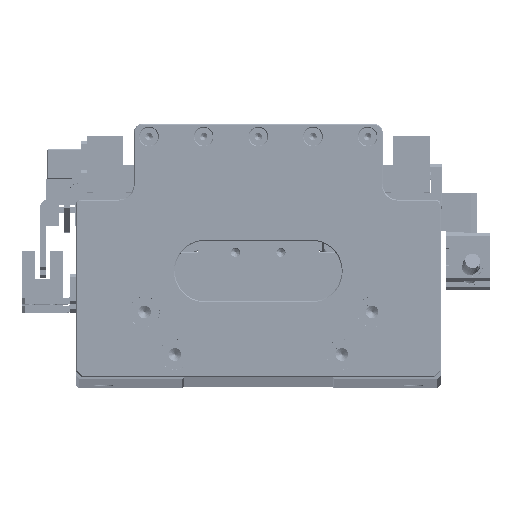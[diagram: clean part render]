
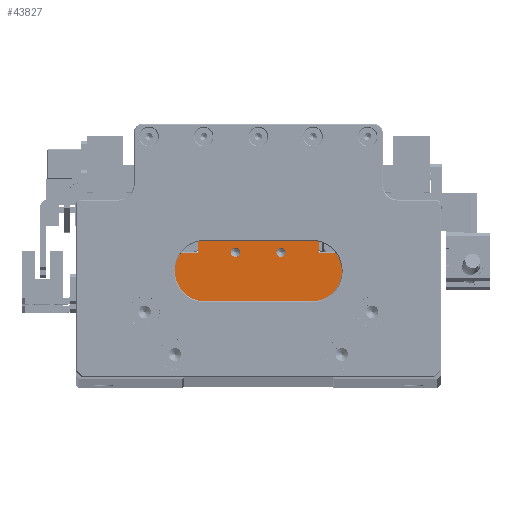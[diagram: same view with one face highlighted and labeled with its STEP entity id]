
A CAD part, top view. The second image highlights one B-rep face of the part: STEP entity #43827.
In plain terms, the highlighted planar face has unit normal (0, 0, 1).
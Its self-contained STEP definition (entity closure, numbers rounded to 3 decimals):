
#518 = ORIENTED_EDGE ( 'NONE', *, *, #74993, .F. ) ;
#971 = CARTESIAN_POINT ( 'NONE',  ( -20., 29.7, 83.854 ) ) ;
#2728 = CARTESIAN_POINT ( 'NONE',  ( -7.5, 25.7, 83.854 ) ) ;
#5078 = DIRECTION ( 'NONE',  ( 0., 0., 1. ) ) ;
#5548 = VECTOR ( 'NONE', #66622, 1000. ) ;
#9921 = VERTEX_POINT ( 'NONE', #87166 ) ;
#11412 = CARTESIAN_POINT ( 'NONE',  ( -7.5, 29.7, 83.854 ) ) ;
#14302 = CARTESIAN_POINT ( 'NONE',  ( 7.5, 25.8, 83.854 ) ) ;
#16422 = VERTEX_POINT ( 'NONE', #46594 ) ;
#17120 = EDGE_LOOP ( 'NONE', ( #26676, #119900 ) ) ;
#18839 = CIRCLE ( 'NONE', #61138, 1.525 ) ;
#20318 = ORIENTED_EDGE ( 'NONE', *, *, #24668, .F. ) ;
#21150 = CARTESIAN_POINT ( 'NONE',  ( 9.025, 25.8, 83.854 ) ) ;
#21300 = DIRECTION ( 'NONE',  ( 1., 0., 0. ) ) ;
#21891 = AXIS2_PLACEMENT_3D ( 'NONE', #66211, #115454, #56752 ) ;
#23227 = ORIENTED_EDGE ( 'NONE', *, *, #126706, .T. ) ;
#24158 = DIRECTION ( 'NONE',  ( 1., 0., 0. ) ) ;
#24408 = DIRECTION ( 'NONE',  ( 0., 1., 0. ) ) ;
#24668 = EDGE_CURVE ( 'NONE', #118254, #16422, #41644, .T. ) ;
#26676 = ORIENTED_EDGE ( 'NONE', *, *, #79722, .F. ) ;
#29684 = EDGE_CURVE ( 'NONE', #96753, #96011, #18839, .T. ) ;
#30448 = DIRECTION ( 'NONE',  ( 0., 0., 1. ) ) ;
#32502 = CARTESIAN_POINT ( 'NONE',  ( -7.5, 25.8, 83.854 ) ) ;
#33589 = VERTEX_POINT ( 'NONE', #54991 ) ;
#37385 = LINE ( 'NONE', #122086, #126194 ) ;
#39129 = VECTOR ( 'NONE', #115843, 1000. ) ;
#41644 = CIRCLE ( 'NONE', #80432, 1.525 ) ;
#42355 = DIRECTION ( 'NONE',  ( 1., 0., 0. ) ) ;
#42428 = FACE_BOUND ( 'NONE', #72224, .T. ) ;
#43247 = LINE ( 'NONE', #122826, #66280 ) ;
#43509 = VECTOR ( 'NONE', #21300, 1000. ) ;
#43827 = ADVANCED_FACE ( 'NONE', ( #111381, #42428, #108283 ), #105551, .F. ) ;
#44090 = VECTOR ( 'NONE', #71382, 1000. ) ;
#46409 = LINE ( 'NONE', #118168, #69388 ) ;
#46594 = CARTESIAN_POINT ( 'NONE',  ( 5.975, 25.8, 83.854 ) ) ;
#49133 = VERTEX_POINT ( 'NONE', #101393 ) ;
#49649 = DIRECTION ( 'NONE',  ( 0., -1., 0. ) ) ;
#51697 = CARTESIAN_POINT ( 'NONE',  ( -7.5, 25.7, 83.854 ) ) ;
#51964 = EDGE_CURVE ( 'NONE', #106507, #9921, #118645, .T. ) ;
#52043 = ORIENTED_EDGE ( 'NONE', *, *, #70010, .F. ) ;
#53578 = VECTOR ( 'NONE', #100920, 1000. ) ;
#54695 = EDGE_CURVE ( 'NONE', #61165, #49133, #82681, .T. ) ;
#54991 = CARTESIAN_POINT ( 'NONE',  ( -29.9, 6.5, 83.854 ) ) ;
#56273 = ORIENTED_EDGE ( 'NONE', *, *, #63769, .F. ) ;
#56730 = CARTESIAN_POINT ( 'NONE',  ( -20., 18.2, 83.854 ) ) ;
#56752 = DIRECTION ( 'NONE',  ( -1., 0., 0. ) ) ;
#57749 = LINE ( 'NONE', #56730, #5548 ) ;
#58777 = EDGE_LOOP ( 'NONE', ( #56273, #52043, #23227, #79055, #93550, #518, #71938, #86332 ) ) ;
#61138 = AXIS2_PLACEMENT_3D ( 'NONE', #32502, #101007, #42355 ) ;
#61165 = VERTEX_POINT ( 'NONE', #105933 ) ;
#63769 = EDGE_CURVE ( 'NONE', #121644, #103250, #70176, .T. ) ;
#63870 = CARTESIAN_POINT ( 'NONE',  ( -7.5, 25.8, 83.854 ) ) ;
#64963 = CARTESIAN_POINT ( 'NONE',  ( -20., 25.7, 83.854 ) ) ;
#66211 = CARTESIAN_POINT ( 'NONE',  ( -7.5, 18.2, 83.854 ) ) ;
#66280 = VECTOR ( 'NONE', #93283, 1000. ) ;
#66622 = DIRECTION ( 'NONE',  ( 0., 1., 0. ) ) ;
#69388 = VECTOR ( 'NONE', #49649, 1000. ) ;
#70010 = EDGE_CURVE ( 'NONE', #33589, #121644, #37385, .T. ) ;
#70176 = LINE ( 'NONE', #2728, #44090 ) ;
#71382 = DIRECTION ( 'NONE',  ( 1., 0., 0. ) ) ;
#71938 = ORIENTED_EDGE ( 'NONE', *, *, #51964, .F. ) ;
#72224 = EDGE_LOOP ( 'NONE', ( #20318, #99502 ) ) ;
#73674 = DIRECTION ( 'NONE',  ( 1., 0., 0. ) ) ;
#74993 = EDGE_CURVE ( 'NONE', #9921, #61165, #91221, .T. ) ;
#79055 = ORIENTED_EDGE ( 'NONE', *, *, #93531, .F. ) ;
#79722 = EDGE_CURVE ( 'NONE', #96011, #96753, #89520, .T. ) ;
#80432 = AXIS2_PLACEMENT_3D ( 'NONE', #89125, #30448, #99013 ) ;
#82681 = LINE ( 'NONE', #51697, #53578 ) ;
#82806 = DIRECTION ( 'NONE',  ( 0., 0., 1. ) ) ;
#85904 = CARTESIAN_POINT ( 'NONE',  ( -29.9, 25.7, 83.854 ) ) ;
#86332 = ORIENTED_EDGE ( 'NONE', *, *, #87687, .F. ) ;
#87166 = CARTESIAN_POINT ( 'NONE',  ( 20., 29.7, 83.854 ) ) ;
#87687 = EDGE_CURVE ( 'NONE', #103250, #106507, #57749, .T. ) ;
#88726 = AXIS2_PLACEMENT_3D ( 'NONE', #63870, #5078, #73674 ) ;
#89045 = EDGE_CURVE ( 'NONE', #16422, #118254, #91148, .T. ) ;
#89125 = CARTESIAN_POINT ( 'NONE',  ( 7.5, 25.8, 83.854 ) ) ;
#89520 = CIRCLE ( 'NONE', #88726, 1.525 ) ;
#91148 = CIRCLE ( 'NONE', #95090, 1.525 ) ;
#91221 = LINE ( 'NONE', #105930, #39129 ) ;
#93283 = DIRECTION ( 'NONE',  ( 1., 0., 0. ) ) ;
#93531 = EDGE_CURVE ( 'NONE', #49133, #122545, #46409, .T. ) ;
#93550 = ORIENTED_EDGE ( 'NONE', *, *, #54695, .F. ) ;
#93946 = CARTESIAN_POINT ( 'NONE',  ( -5.975, 25.8, 83.854 ) ) ;
#95090 = AXIS2_PLACEMENT_3D ( 'NONE', #14302, #82806, #24158 ) ;
#96011 = VERTEX_POINT ( 'NONE', #93946 ) ;
#96753 = VERTEX_POINT ( 'NONE', #114031 ) ;
#99013 = DIRECTION ( 'NONE',  ( 1., 0., 0. ) ) ;
#99038 = CARTESIAN_POINT ( 'NONE',  ( 29.9, 6.5, 83.854 ) ) ;
#99502 = ORIENTED_EDGE ( 'NONE', *, *, #89045, .F. ) ;
#100920 = DIRECTION ( 'NONE',  ( 1., 0., 0. ) ) ;
#101007 = DIRECTION ( 'NONE',  ( 0., 0., 1. ) ) ;
#101393 = CARTESIAN_POINT ( 'NONE',  ( 29.9, 25.7, 83.854 ) ) ;
#103250 = VERTEX_POINT ( 'NONE', #64963 ) ;
#105551 = PLANE ( 'NONE',  #21891 ) ;
#105930 = CARTESIAN_POINT ( 'NONE',  ( 20., 18.2, 83.854 ) ) ;
#105933 = CARTESIAN_POINT ( 'NONE',  ( 20., 25.7, 83.854 ) ) ;
#106507 = VERTEX_POINT ( 'NONE', #971 ) ;
#108283 = FACE_BOUND ( 'NONE', #17120, .T. ) ;
#111381 = FACE_OUTER_BOUND ( 'NONE', #58777, .T. ) ;
#114031 = CARTESIAN_POINT ( 'NONE',  ( -9.025, 25.8, 83.854 ) ) ;
#115454 = DIRECTION ( 'NONE',  ( 0., 0., -1. ) ) ;
#115843 = DIRECTION ( 'NONE',  ( 0., -1., 0. ) ) ;
#118168 = CARTESIAN_POINT ( 'NONE',  ( 29.9, 18.2, 83.854 ) ) ;
#118254 = VERTEX_POINT ( 'NONE', #21150 ) ;
#118645 = LINE ( 'NONE', #11412, #43509 ) ;
#119900 = ORIENTED_EDGE ( 'NONE', *, *, #29684, .F. ) ;
#121644 = VERTEX_POINT ( 'NONE', #85904 ) ;
#122086 = CARTESIAN_POINT ( 'NONE',  ( -29.9, 18.2, 83.854 ) ) ;
#122545 = VERTEX_POINT ( 'NONE', #99038 ) ;
#122826 = CARTESIAN_POINT ( 'NONE',  ( -7.5, 6.5, 83.854 ) ) ;
#126194 = VECTOR ( 'NONE', #24408, 1000. ) ;
#126706 = EDGE_CURVE ( 'NONE', #33589, #122545, #43247, .T. ) ;
